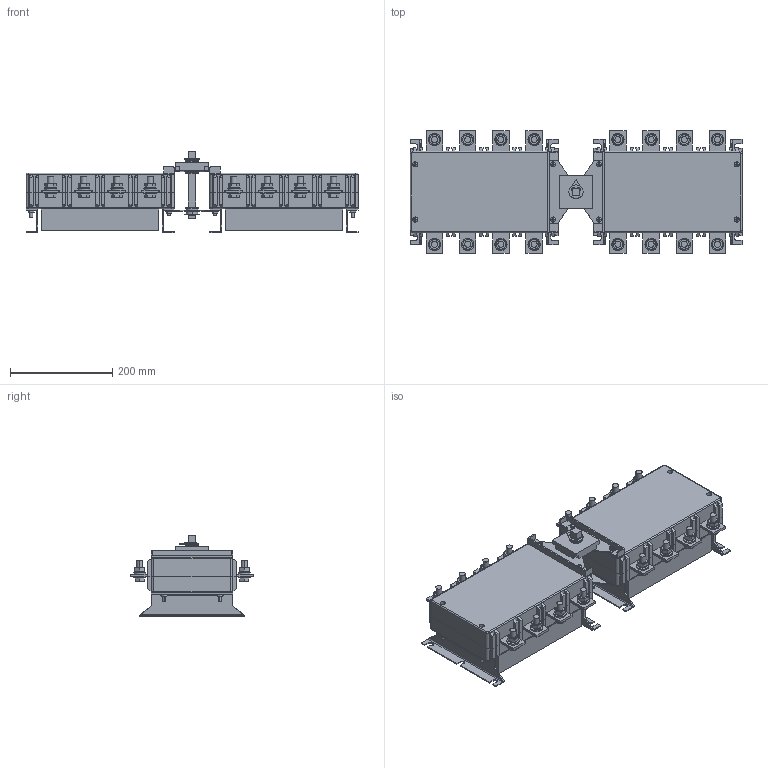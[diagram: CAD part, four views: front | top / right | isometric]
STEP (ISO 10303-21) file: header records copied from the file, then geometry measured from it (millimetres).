
FILE_DESCRIPTION((''),'2;1');
FILE_NAME('315-4S_ASM','2021-05-07T',('wangpeng'),(''),'PRO/ENGINEER BY PARAMETRIC TECHNOLOGY CORPORATION, 2009460','PRO/ENGINEER BY PARAMETRIC TECHNOLOGY CORPORATION, 2009460','');
FILE_SCHEMA(('AUTOMOTIVE_DESIGN { 1 0 10303 214 1 1 1 1 }'));
Length unit declared in the file: millimetre
Products named in the file (21): SB-315-4S; ZB-315-4S; CT-315-4S; XB-315-4S; YB-315-4S; ZCB-315-4S; DB-315-4S; PDQ12; LSM12; TDQ12; LMM12; PDQ6; 00LSM6; 0LSM6; LMM6; ZSJNH40; FKSNH40; ZSJTNH40; ZZ-315-4S; DQM8; 315-4S_ASM
Assembly tree (150 placements, depth 2):
  315-4S_ASM
    SB-315-4S  x2
    ZB-315-4S  x2
    CT-315-4S  x8
    XB-315-4S  x2
    YB-315-4S  x2
    ZCB-315-4S  x2
    DB-315-4S  x4
    PDQ12  x32
    LSM12  x16
    TDQ12  x16
    LMM12  x16
    PDQ6  x16
    00LSM6  x4
    0LSM6  x12
    LMM6  x8
    ZSJNH40
    FKSNH40  x3
    ZSJTNH40
    ZZ-315-4S
    DQM8  x2
Bounding box: 650 x 240 x 160.5 mm (x, y, z)
Volume: 10252599.9 mm3; surface area: 1262850.9 mm2
Topology: 150 solids, 150 shells, 2852 faces, 7013 edges, 4524 vertices
Faces by surface type: plane 1657, cylinder 731, cone 416, sphere 32, torus 16
Entity records: 24235 total; most frequent: CARTESIAN_POINT 4443, DIRECTION 3787, ORIENTED_EDGE 3576, EDGE_CURVE 1788, VECTOR 1329, LINE 1329, AXIS2_PLACEMENT_3D 1229, VERTEX_POINT 1175
